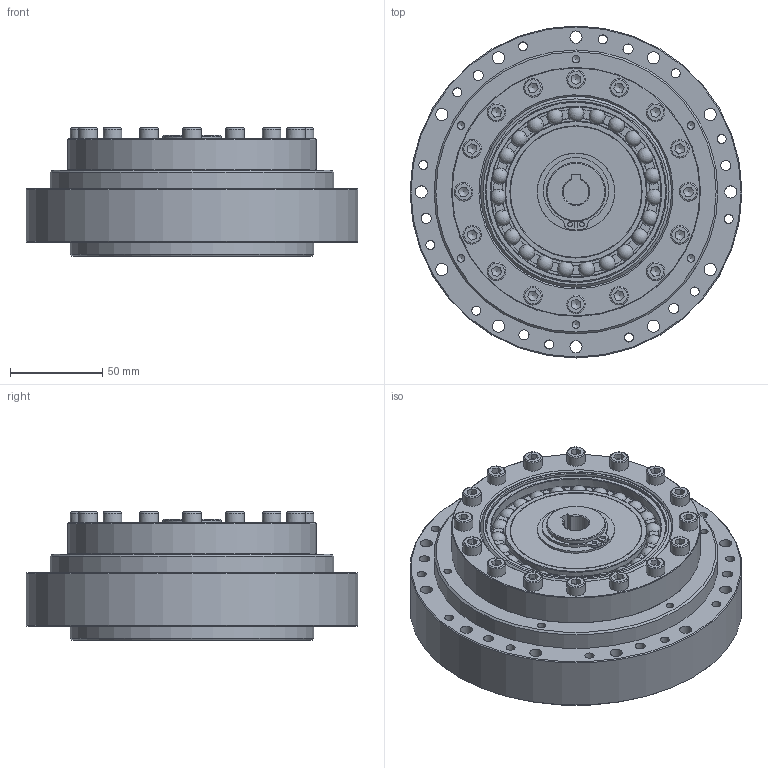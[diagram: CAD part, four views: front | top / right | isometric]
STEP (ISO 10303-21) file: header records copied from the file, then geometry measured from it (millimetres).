
FILE_DESCRIPTION(/* description */ (''),/* implementation_level */ '2;1');
FILE_NAME(/* name */ 'S:\TB00F\研發課二組\機密級\1.\X2\8A2D8A08\X0\\01-DT\DT-高彎矩型\40\DSC-40-PO-M_3D\X2\6A21578B\X0\\DSC-40-XX-PO-M.stp',/* time_stamp */ '2024-05-13T14:34:29+08:00',/* author */ ('yin210'),/* organization */ (''),/* preprocessor_version */ 'ST-DEVELOPER v15.2',/* originating_system */ 'Autodesk Inventor 2014',/* authorisation */ '');
FILE_SCHEMA (('AUTOMOTIVE_DESIGN { 1 0 10303 214 3 1 1 }'));
Length unit declared in the file: centimetre
Products named in the file (1): DSC-40-XX-PO-M
Bounding box: 180 x 180 x 69.5 mm (x, y, z)
Volume: 991623.7 mm3; surface area: 179718.5 mm2
Topology: 4 solids, 5 shells, 892 faces, 2434 edges, 1555 vertices
Faces by surface type: plane 431, cylinder 215, torus 128, cone 95, sphere 23
Full cylindrical faces by diameter (mm): 2.5 x2, 4.134 x6, 4.6 x4, 4.917 x12, 5 x4, 5.5 x6, 6.6 x12, 6.647 x12, 8.376 x8, 10 x22, 16 x8, 24 x1, 30.3 x1, 32 x3, 32.1 x1, 32.5 x1, 32.6 x1, 34 x1, 42 x1, 66 x1, 67 x2, 71.12 x1, 76.96 x2, 79.96 x1, 84 x1, 89.35 x1, 92.35 x2, 97.77 x1, 98.17 x1, 103.675 x1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
Entity records: 27744 total; most frequent: CARTESIAN_POINT 6515, DIRECTION 4234, ORIENTED_EDGE 4074, EDGE_CURVE 1989, AXIS2_PLACEMENT_3D 1700, VERTEX_POINT 1379, EDGE_LOOP 1318, ADVANCED_FACE 892
